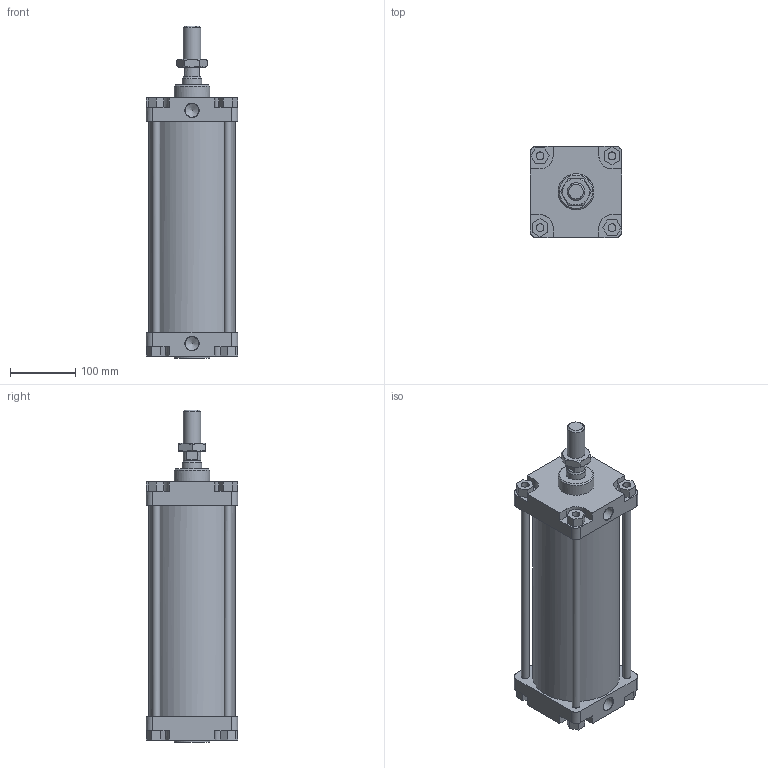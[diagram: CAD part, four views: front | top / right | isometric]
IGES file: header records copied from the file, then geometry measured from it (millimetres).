
Global section: file name: 1303_125_0250_01A; native system: Autodesk Inventor 2014; preprocessor: unknown; author: A. Manieri; date: 20161124.141531; units: millimetre
Bounding box: 140 x 140 x 508 mm (x, y, z)
Volume: 3149005.1 mm3; surface area: 554310.9 mm2
Topology: 9 solids, 9 shells, 175 faces, 440 edges, 295 vertices
Faces by surface type: bspline 175
